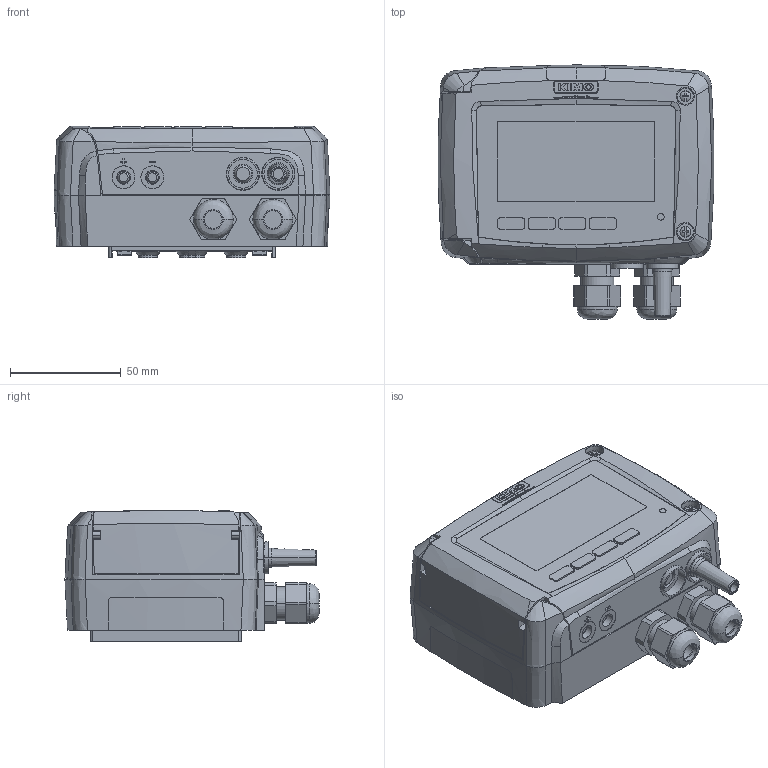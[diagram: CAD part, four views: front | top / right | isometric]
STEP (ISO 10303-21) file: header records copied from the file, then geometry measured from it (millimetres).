
FILE_DESCRIPTION((''),'2;1');
FILE_NAME('TH210_D','2016-06-27T',('REFT'),(''),'PRO/ENGINEER BY PARAMETRIC TECHNOLOGY CORPORATION, 2012420','PRO/ENGINEER BY PARAMETRIC TECHNOLOGY CORPORATION, 2012420','');
FILE_SCHEMA(('CONFIG_CONTROL_DESIGN'));
Products named in the file (1): TH210_D
Bounding box: 124.64 x 114.8 x 59.18 mm (x, y, z)
Volume: 560395.2 mm3; surface area: 72100.9 mm2
Topology: 1 solids, 2 shells, 1957 faces, 5154 edges, 3349 vertices
Faces by surface type: plane 1056, extrusion 396, cylinder 297, bspline 102, cone 66, sphere 20, torus 16, revolution 4
Entity records: 68479 total; most frequent: CARTESIAN_POINT 22229, ORIENTED_EDGE 10308, DIRECTION 7933, EDGE_CURVE 5154, VECTOR 3623, VERTEX_POINT 3349, LINE 3227, AXIS2_PLACEMENT_3D 2153
